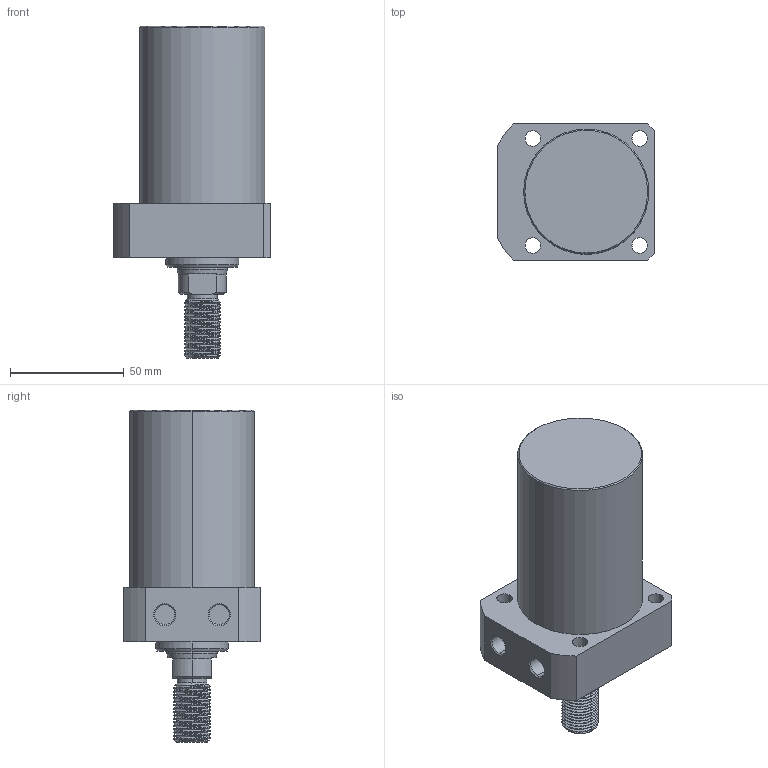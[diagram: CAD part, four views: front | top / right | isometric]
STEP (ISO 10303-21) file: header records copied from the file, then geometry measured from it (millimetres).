
FILE_DESCRIPTION (( 'STEP AP214' ), '1' );
FILE_NAME ('CLLR-055CT-065.STEP', '2020-01-09T00:37:39', ( 'Windows' ), ( 'Microsoft' ), 'SwSTEP 2.0', 'SolidWorks 2015', '' );
FILE_SCHEMA (( 'AUTOMOTIVE_DESIGN' ));
Length unit declared in the file: millimetre
Products named in the file (1): CLLR-055CT-065
Bounding box: 69 x 60 x 146 mm (x, y, z)
Volume: 289666.5 mm3; surface area: 33434.8 mm2
Topology: 1 solids, 1 shells, 101 faces, 260 edges, 169 vertices
Faces by surface type: cylinder 61, plane 20, cone 18, bspline 2
Entity records: 5036 total; most frequent: CARTESIAN_POINT 2689, ORIENTED_EDGE 520, DIRECTION 454, EDGE_CURVE 260, AXIS2_PLACEMENT_3D 177, VERTEX_POINT 169, EDGE_LOOP 117, FACE_OUTER_BOUND 101
